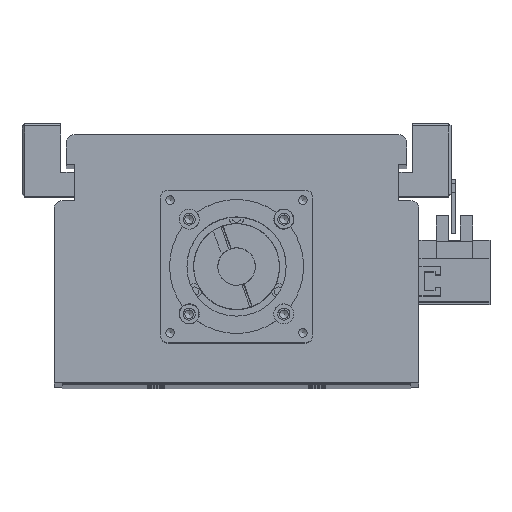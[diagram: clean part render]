
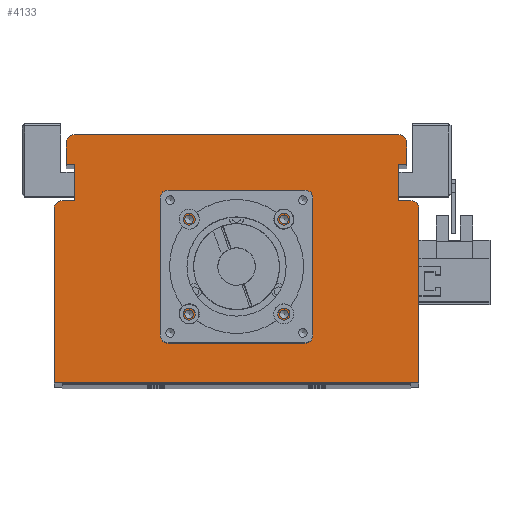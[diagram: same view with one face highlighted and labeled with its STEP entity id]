
A CAD part, top view. The second image highlights one B-rep face of the part: STEP entity #4133.
In plain terms, the highlighted planar face has unit normal (0, 0, 1).
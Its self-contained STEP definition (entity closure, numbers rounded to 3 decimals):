
#2691=CARTESIAN_POINT('',(19.321,61.5,945.));
#2692=VERTEX_POINT('',#2691);
#2693=CARTESIAN_POINT('',(17.7,61.5,945.));
#2694=DIRECTION('',(0.0,0.0,-1.0));
#2695=DIRECTION('',(1.0,0.0,0.0));
#2696=AXIS2_PLACEMENT_3D('',#2693,#2694,#2695);
#2697=CIRCLE('',#2696,1.621);
#2698=EDGE_CURVE('',#2692,#2692,#2697,.T.);
#2770=CARTESIAN_POINT('',(19.321,26.1,945.));
#2771=VERTEX_POINT('',#2770);
#2772=CARTESIAN_POINT('',(17.7,26.1,945.));
#2773=DIRECTION('',(0.0,0.0,-1.0));
#2774=DIRECTION('',(1.0,0.0,0.0));
#2775=AXIS2_PLACEMENT_3D('',#2772,#2773,#2774);
#2776=CIRCLE('',#2775,1.621);
#2777=EDGE_CURVE('',#2771,#2771,#2776,.T.);
#2849=CARTESIAN_POINT('',(-16.079,26.1,945.));
#2850=VERTEX_POINT('',#2849);
#2851=CARTESIAN_POINT('',(-17.7,26.1,945.));
#2852=DIRECTION('',(0.0,0.0,-1.0));
#2853=DIRECTION('',(1.0,0.0,0.0));
#2854=AXIS2_PLACEMENT_3D('',#2851,#2852,#2853);
#2855=CIRCLE('',#2854,1.621);
#2856=EDGE_CURVE('',#2850,#2850,#2855,.T.);
#2928=CARTESIAN_POINT('',(-16.079,61.5,945.));
#2929=VERTEX_POINT('',#2928);
#2930=CARTESIAN_POINT('',(-17.7,61.5,945.));
#2931=DIRECTION('',(0.0,0.0,-1.0));
#2932=DIRECTION('',(1.0,0.0,0.0));
#2933=AXIS2_PLACEMENT_3D('',#2930,#2931,#2932);
#2934=CIRCLE('',#2933,1.621);
#2935=EDGE_CURVE('',#2929,#2929,#2934,.T.);
#2969=CARTESIAN_POINT('',(26.5,43.8,945.));
#2970=VERTEX_POINT('',#2969);
#2971=CARTESIAN_POINT('',(24.5,43.8,945.));
#2972=DIRECTION('',(0.0,0.0,-1.0));
#2973=DIRECTION('',(1.0,0.0,0.0));
#2974=AXIS2_PLACEMENT_3D('',#2971,#2972,#2973);
#2975=CIRCLE('',#2974,2.0);
#2976=EDGE_CURVE('',#2970,#2970,#2975,.T.);
#3018=CARTESIAN_POINT('',(-22.5,43.8,945.));
#3019=VERTEX_POINT('',#3018);
#3020=CARTESIAN_POINT('',(-24.5,43.8,945.));
#3021=DIRECTION('',(0.0,0.0,-1.0));
#3022=DIRECTION('',(1.0,0.0,0.0));
#3023=AXIS2_PLACEMENT_3D('',#3020,#3021,#3022);
#3024=CIRCLE('',#3023,2.0);
#3025=EDGE_CURVE('',#3019,#3019,#3024,.T.);
#3949=CARTESIAN_POINT('',(21.05,43.8,945.));
#3950=VERTEX_POINT('',#3949);
#3951=CARTESIAN_POINT('',(0.0,43.8,945.));
#3952=DIRECTION('',(0.0,0.0,-1.0));
#3953=DIRECTION('',(-1.0,0.0,0.0));
#3954=AXIS2_PLACEMENT_3D('',#3951,#3952,#3953);
#3955=CIRCLE('',#3954,21.05);
#3956=EDGE_CURVE('',#3950,#3950,#3955,.T.);
#3973=CARTESIAN_POINT('',(0.,29.533,945.));
#3974=DIRECTION('',(0.0,0.0,1.0));
#3975=DIRECTION('',(1.0,0.0,0.0));
#3976=AXIS2_PLACEMENT_3D('',#3973,#3974,#3975);
#3977=PLANE('',#3976);
#3978=CARTESIAN_POINT('',(-65.,68.5,945.));
#3979=VERTEX_POINT('',#3978);
#3980=CARTESIAN_POINT('',(-60.5,68.5,945.0));
#3981=VERTEX_POINT('',#3980);
#3982=CARTESIAN_POINT('',(-65.,68.5,945.));
#3983=DIRECTION('',(1.0,0.0,0.0));
#3984=VECTOR('',#3983,4.5);
#3985=LINE('',#3982,#3984);
#3986=EDGE_CURVE('',#3979,#3981,#3985,.T.);
#3987=ORIENTED_EDGE('',*,*,#3986,.F.);
#3988=CARTESIAN_POINT('',(-68.,65.5,945.));
#3989=VERTEX_POINT('',#3988);
#3990=CARTESIAN_POINT('',(-65.,65.5,945.0));
#3991=DIRECTION('',(0.0,0.0,-1.0));
#3992=DIRECTION('',(0.0,1.0,0.0));
#3993=AXIS2_PLACEMENT_3D('',#3990,#3991,#3992);
#3994=CIRCLE('',#3993,3.);
#3995=EDGE_CURVE('',#3989,#3979,#3994,.T.);
#3996=ORIENTED_EDGE('',*,*,#3995,.F.);
#3997=CARTESIAN_POINT('',(-68.0,0.5,945.));
#3998=VERTEX_POINT('',#3997);
#3999=CARTESIAN_POINT('',(-68.0,0.5,945.));
#4000=DIRECTION('',(0.0,1.0,0.0));
#4001=VECTOR('',#4000,65.0);
#4002=LINE('',#3999,#4001);
#4003=EDGE_CURVE('',#3998,#3989,#4002,.T.);
#4004=ORIENTED_EDGE('',*,*,#4003,.F.);
#4005=CARTESIAN_POINT('',(68.0,0.5,945.));
#4006=VERTEX_POINT('',#4005);
#4007=CARTESIAN_POINT('',(68.0,0.5,945.));
#4008=DIRECTION('',(-1.0,0.0,0.0));
#4009=VECTOR('',#4008,136.0);
#4010=LINE('',#4007,#4009);
#4011=EDGE_CURVE('',#4006,#3998,#4010,.T.);
#4012=ORIENTED_EDGE('',*,*,#4011,.F.);
#4013=CARTESIAN_POINT('',(68.0,65.5,945.));
#4014=VERTEX_POINT('',#4013);
#4015=CARTESIAN_POINT('',(68.0,65.5,945.));
#4016=DIRECTION('',(0.0,-1.0,0.0));
#4017=VECTOR('',#4016,65.0);
#4018=LINE('',#4015,#4017);
#4019=EDGE_CURVE('',#4014,#4006,#4018,.T.);
#4020=ORIENTED_EDGE('',*,*,#4019,.F.);
#4021=CARTESIAN_POINT('',(65.,68.5,945.));
#4022=VERTEX_POINT('',#4021);
#4023=CARTESIAN_POINT('',(65.,65.5,945.0));
#4024=DIRECTION('',(0.0,0.0,-1.0));
#4025=DIRECTION('',(1.0,0.0,0.0));
#4026=AXIS2_PLACEMENT_3D('',#4023,#4024,#4025);
#4027=CIRCLE('',#4026,3.);
#4028=EDGE_CURVE('',#4022,#4014,#4027,.T.);
#4029=ORIENTED_EDGE('',*,*,#4028,.F.);
#4030=CARTESIAN_POINT('',(60.5,68.5,945.0));
#4031=VERTEX_POINT('',#4030);
#4032=CARTESIAN_POINT('',(60.5,68.5,945.0));
#4033=DIRECTION('',(1.0,0.0,0.0));
#4034=VECTOR('',#4033,4.5);
#4035=LINE('',#4032,#4034);
#4036=EDGE_CURVE('',#4031,#4022,#4035,.T.);
#4037=ORIENTED_EDGE('',*,*,#4036,.F.);
#4038=CARTESIAN_POINT('',(60.5,82.,945.));
#4039=VERTEX_POINT('',#4038);
#4040=CARTESIAN_POINT('',(60.5,82.,945.));
#4041=DIRECTION('',(0.0,-1.0,0.0));
#4042=VECTOR('',#4041,13.5);
#4043=LINE('',#4040,#4042);
#4044=EDGE_CURVE('',#4039,#4031,#4043,.T.);
#4045=ORIENTED_EDGE('',*,*,#4044,.F.);
#4046=CARTESIAN_POINT('',(63.5,82.,945.));
#4047=VERTEX_POINT('',#4046);
#4048=CARTESIAN_POINT('',(63.5,82.,945.));
#4049=DIRECTION('',(-1.0,0.0,0.0));
#4050=VECTOR('',#4049,3.0);
#4051=LINE('',#4048,#4050);
#4052=EDGE_CURVE('',#4047,#4039,#4051,.T.);
#4053=ORIENTED_EDGE('',*,*,#4052,.F.);
#4054=CARTESIAN_POINT('',(63.5,90.0,945.));
#4055=VERTEX_POINT('',#4054);
#4056=CARTESIAN_POINT('',(63.5,90.0,945.));
#4057=DIRECTION('',(0.0,-1.0,0.0));
#4058=VECTOR('',#4057,8.);
#4059=LINE('',#4056,#4058);
#4060=EDGE_CURVE('',#4055,#4047,#4059,.T.);
#4061=ORIENTED_EDGE('',*,*,#4060,.F.);
#4062=CARTESIAN_POINT('',(60.5,93.,945.));
#4063=VERTEX_POINT('',#4062);
#4064=CARTESIAN_POINT('',(60.5,90.0,945.0));
#4065=DIRECTION('',(0.0,0.0,-1.0));
#4066=DIRECTION('',(1.0,0.0,0.0));
#4067=AXIS2_PLACEMENT_3D('',#4064,#4065,#4066);
#4068=CIRCLE('',#4067,3.);
#4069=EDGE_CURVE('',#4063,#4055,#4068,.T.);
#4070=ORIENTED_EDGE('',*,*,#4069,.F.);
#4071=CARTESIAN_POINT('',(-60.5,93.0,945.));
#4072=VERTEX_POINT('',#4071);
#4073=CARTESIAN_POINT('',(-60.5,93.0,945.));
#4074=DIRECTION('',(1.0,0.0,0.0));
#4075=VECTOR('',#4074,121.0);
#4076=LINE('',#4073,#4075);
#4077=EDGE_CURVE('',#4072,#4063,#4076,.T.);
#4078=ORIENTED_EDGE('',*,*,#4077,.F.);
#4079=CARTESIAN_POINT('',(-63.5,90.0,945.));
#4080=VERTEX_POINT('',#4079);
#4081=CARTESIAN_POINT('',(-60.5,90.0,945.0));
#4082=DIRECTION('',(0.0,0.0,-1.0));
#4083=DIRECTION('',(0.0,1.0,0.0));
#4084=AXIS2_PLACEMENT_3D('',#4081,#4082,#4083);
#4085=CIRCLE('',#4084,3.);
#4086=EDGE_CURVE('',#4080,#4072,#4085,.T.);
#4087=ORIENTED_EDGE('',*,*,#4086,.F.);
#4088=CARTESIAN_POINT('',(-63.5,82.,945.));
#4089=VERTEX_POINT('',#4088);
#4090=CARTESIAN_POINT('',(-63.5,82.,945.));
#4091=DIRECTION('',(0.0,1.0,0.0));
#4092=VECTOR('',#4091,8.);
#4093=LINE('',#4090,#4092);
#4094=EDGE_CURVE('',#4089,#4080,#4093,.T.);
#4095=ORIENTED_EDGE('',*,*,#4094,.F.);
#4096=CARTESIAN_POINT('',(-60.5,82.,945.));
#4097=VERTEX_POINT('',#4096);
#4098=CARTESIAN_POINT('',(-60.5,82.,945.));
#4099=DIRECTION('',(-1.0,0.0,0.0));
#4100=VECTOR('',#4099,3.);
#4101=LINE('',#4098,#4100);
#4102=EDGE_CURVE('',#4097,#4089,#4101,.T.);
#4103=ORIENTED_EDGE('',*,*,#4102,.F.);
#4104=CARTESIAN_POINT('',(-60.5,68.5,945.0));
#4105=DIRECTION('',(0.0,1.0,0.0));
#4106=VECTOR('',#4105,13.5);
#4107=LINE('',#4104,#4106);
#4108=EDGE_CURVE('',#3981,#4097,#4107,.T.);
#4109=ORIENTED_EDGE('',*,*,#4108,.F.);
#4110=EDGE_LOOP('',(#3987,#3996,#4004,#4012,#4020,#4029,#4037,#4045,#4053,#4061,#4070,#4078,#4087,#4095,#4103,#4109));
#4111=FACE_OUTER_BOUND('',#4110,.T.);
#4112=ORIENTED_EDGE('',*,*,#2698,.T.);
#4113=EDGE_LOOP('',(#4112));
#4114=FACE_BOUND('',#4113,.T.);
#4115=ORIENTED_EDGE('',*,*,#2777,.T.);
#4116=EDGE_LOOP('',(#4115));
#4117=FACE_BOUND('',#4116,.T.);
#4118=ORIENTED_EDGE('',*,*,#2856,.T.);
#4119=EDGE_LOOP('',(#4118));
#4120=FACE_BOUND('',#4119,.T.);
#4121=ORIENTED_EDGE('',*,*,#2935,.T.);
#4122=EDGE_LOOP('',(#4121));
#4123=FACE_BOUND('',#4122,.T.);
#4124=ORIENTED_EDGE('',*,*,#2976,.T.);
#4125=EDGE_LOOP('',(#4124));
#4126=FACE_BOUND('',#4125,.T.);
#4127=ORIENTED_EDGE('',*,*,#3025,.T.);
#4128=EDGE_LOOP('',(#4127));
#4129=FACE_BOUND('',#4128,.T.);
#4130=ORIENTED_EDGE('',*,*,#3956,.T.);
#4131=EDGE_LOOP('',(#4130));
#4132=FACE_BOUND('',#4131,.T.);
#4133=ADVANCED_FACE('',(#4111,#4114,#4117,#4120,#4123,#4126,#4129,#4132),#3977,.T.);
